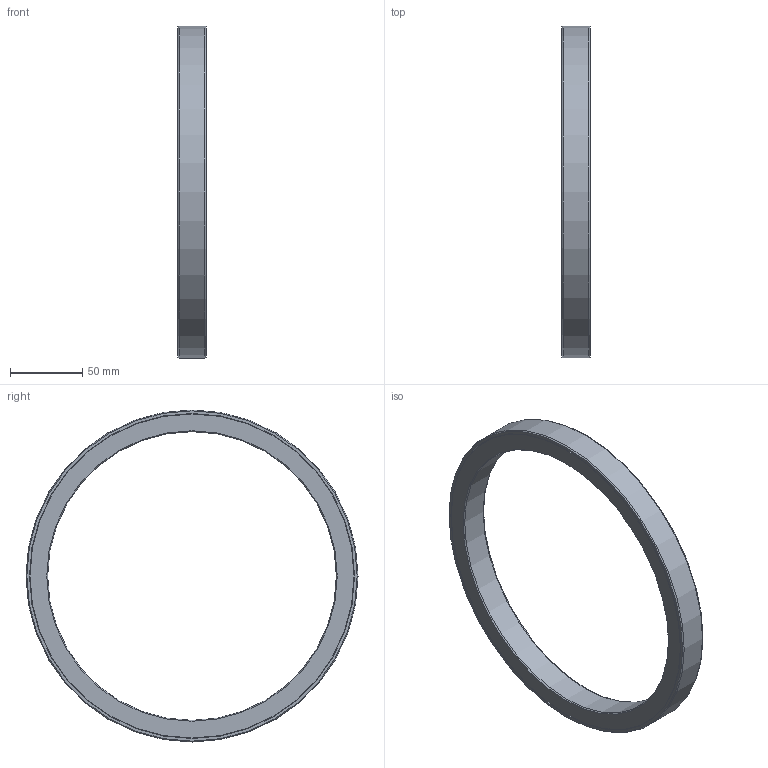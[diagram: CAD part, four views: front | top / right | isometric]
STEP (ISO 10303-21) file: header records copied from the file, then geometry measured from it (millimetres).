
FILE_DESCRIPTION(/* description */ (''),/* implementation_level */ '2;1');
FILE_NAME(/* name */ '301318 L 200x230x20.stp',/* time_stamp */ '2016-12-15T10:38:20+01:00',/* author */ (''),/* organization */ (''),/* preprocessor_version */ 'ST-DEVELOPER v15',/* originating_system */ 'SIEMENS PLM Software NX 8.5',/* authorisation */ '');
FILE_SCHEMA (('CONFIG_CONTROL_DESIGN'));
Length unit declared in the file: millimetre
Products named in the file (1): ATE0000122_01
Bounding box: 20 x 230 x 230 mm (x, y, z)
Volume: 197484.3 mm3; surface area: 74811.5 mm2
Topology: 2 solids, 2 shells, 18 faces, 34 edges, 20 vertices
Faces by surface type: cone 12, plane 4, cylinder 2
Full cylindrical faces by diameter (mm): 200 x1, 230 x1
Entity records: 454 total; most frequent: DIRECTION 74, CARTESIAN_POINT 55, AXIS2_PLACEMENT_3D 37, FACE_BOUND 36, EDGE_LOOP 36, ORIENTED_EDGE 36, ADVANCED_FACE 18, VERTEX_POINT 18
